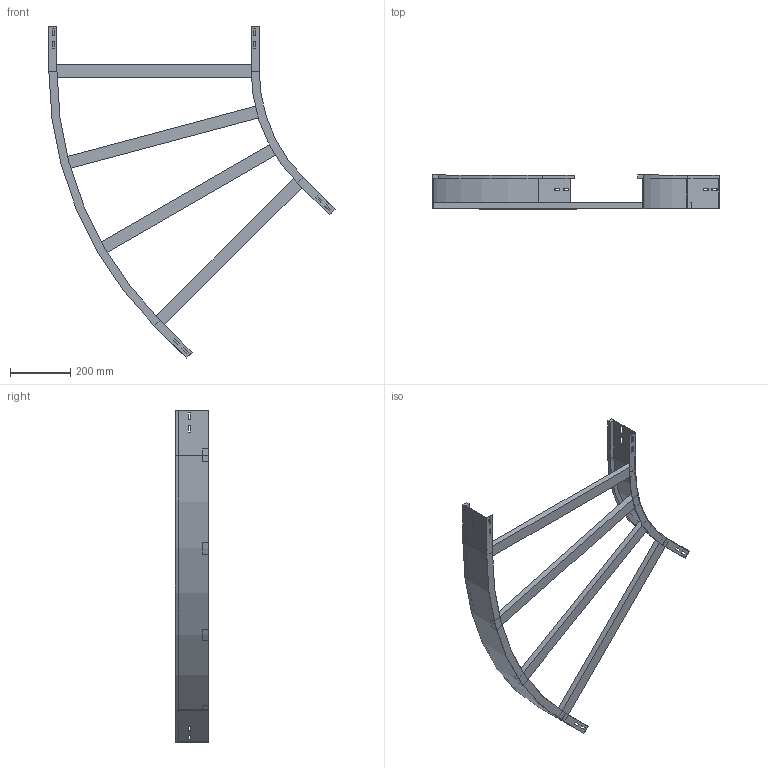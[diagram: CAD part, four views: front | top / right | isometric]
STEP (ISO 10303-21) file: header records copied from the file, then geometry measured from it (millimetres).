
FILE_DESCRIPTION (( 'STEP AP214' ), '1' );
FILE_NAME ('11B5J700.step', '2025-02-21T15:13:55', ( '' ), ( '' ), 'SwSTEP 2.0', 'SolidWorks 2023', '' );
FILE_SCHEMA (( 'AUTOMOTIVE_DESIGN' ));
Length unit declared in the file: millimetre
Products named in the file (4): A2_LONGH.ESTERNO 45°_H112.5_R500+700; A2_LONGH.INTERNO 45°_H112.5_R500; 11B5J700; TRAVERSINO_700
Assembly tree (6 placements, depth 2):
  11B5J700
    A2_LONGH.INTERNO 45°_H112.5_R500
    A2_LONGH.ESTERNO 45°_H112.5_R500+700
    TRAVERSINO_700  x4
Bounding box: 952.51 x 112.5 x 1104.59 mm (x, y, z)
Volume: 3153839.6 mm3; surface area: 943980 mm2
Topology: 6 solids, 6 shells, 140 faces, 352 edges, 224 vertices
Faces by surface type: plane 132, cylinder 8
Entity records: 3829 total; most frequent: CARTESIAN_POINT 647, ORIENTED_EDGE 632, DIRECTION 594, EDGE_CURVE 316, VECTOR 300, LINE 300, VERTEX_POINT 200, EDGE_LOOP 154
